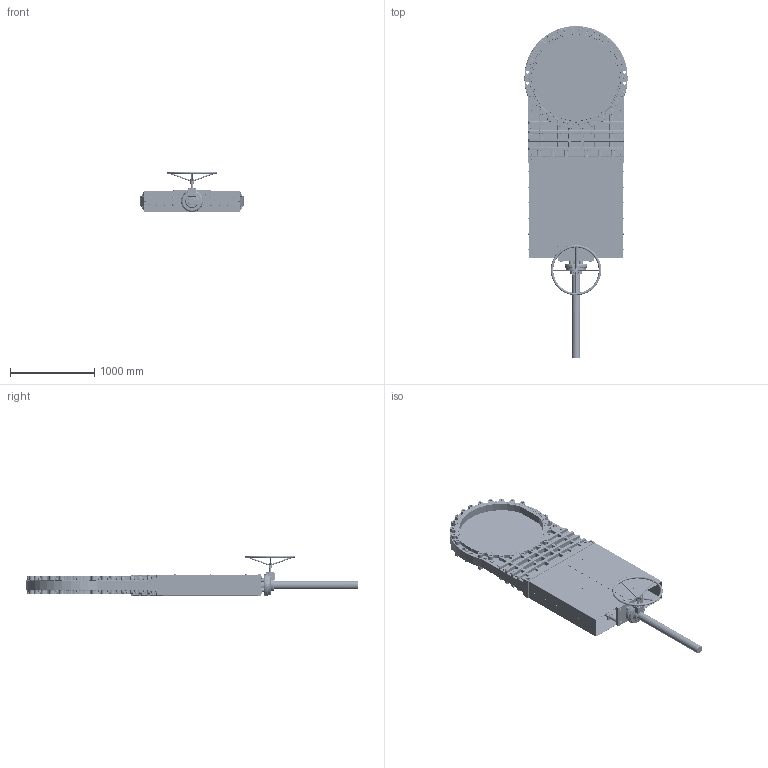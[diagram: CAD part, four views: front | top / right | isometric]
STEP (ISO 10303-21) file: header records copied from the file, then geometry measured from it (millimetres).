
FILE_DESCRIPTION(/* description */ (''),/* implementation_level */ '2;1');
FILE_NAME(/* name */ '明杆刀阀带齿轮箱DN1000简图.stp',/* time_stamp */ '2025-12-22T18:17:29+08:00',/* author */ (''),/* organization */ (''),/* preprocessor_version */ 'ST-DEVELOPER v15',/* originating_system */ 'SIEMENS PLM Software NX 10.0',/* authorisation */ '');
FILE_SCHEMA (('AP203_CONFIGURATION_CONTROLLED_3D_DESIGN_OF_MECHANICAL_PARTS_AND_ASSEMBLIES_MIM_LF { 1 0 10303 403 2 1 2}'));
Products named in the file (1): 4D14B8F2lygl
Bounding box: 1229.03 x 3947.53 x 484.39 mm (x, y, z)
Volume: 241706693.7 mm3; surface area: 16595226.2 mm2
Topology: 1 solids, 72 shells, 5621 faces, 13035 edges, 7979 vertices
Faces by surface type: plane 2071, cylinder 1895, torus 686, cone 558, bspline 398, sphere 12, extrusion 1
Full cylindrical faces by diameter (mm): 7.323 x12, 8 x24, 8.4 x12, 9 x12, 9.188 x12, 10 x24, 10.5 x12, 11.4 x12, 14 x24, 15 x4, 15.4 x12, 16 x60, 17 x24, 18 x24, 20 x21, 22 x6, 22.579 x26, 24 x50, 25.5 x48, 26 x36, 30 x76, 32 x4, 33 x26, 35.556 x2, 37 x4, 40 x1, 45 x48, 46 x2, 50 x4, 51 x1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
Entity records: 189638 total; most frequent: CARTESIAN_POINT 53580, DIRECTION 25434, ORIENTED_EDGE 22638, EDGE_CURVE 11319, AXIS2_PLACEMENT_3D 10687, EDGE_LOOP 7500, VERTEX_POINT 7499, ADVANCED_FACE 5621
